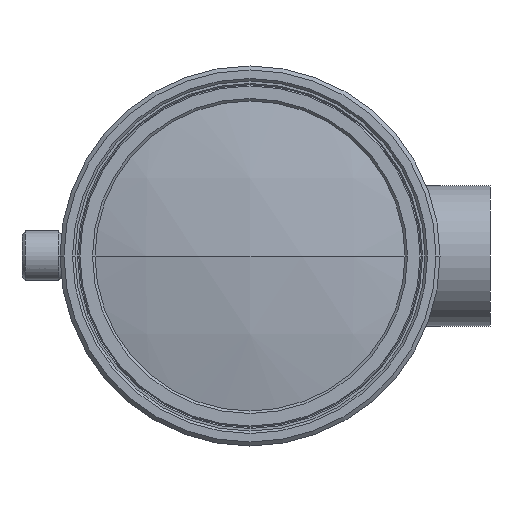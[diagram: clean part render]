
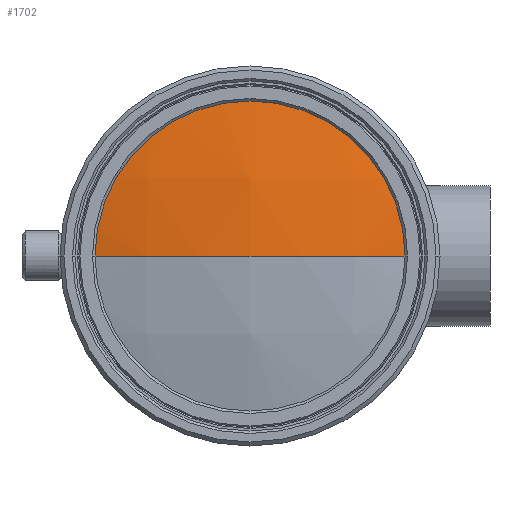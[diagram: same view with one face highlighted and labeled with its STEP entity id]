
A CAD part, left-side view. The second image highlights one B-rep face of the part: STEP entity #1702.
In plain terms, the highlighted spherical face has radius 66.5 mm.
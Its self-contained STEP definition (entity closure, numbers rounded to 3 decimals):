
#32 = DIRECTION ( 'NONE',  ( 0., 0., 1. ) ) ;
#262 = AXIS2_PLACEMENT_3D ( 'NONE', #1637, #32, #696 ) ;
#598 = CIRCLE ( 'NONE', #4110, 15.5 ) ;
#622 = CARTESIAN_POINT ( 'NONE',  ( -64.368, -9.786, 178.355 ) ) ;
#682 = CIRCLE ( 'NONE', #1831, 66.5 ) ;
#696 = DIRECTION ( 'NONE',  ( 0., -1., 0. ) ) ;
#773 = DIRECTION ( 'NONE',  ( 0., 0., -1. ) ) ;
#1115 = ORIENTED_EDGE ( 'NONE', *, *, #3119, .F. ) ;
#1140 = EDGE_CURVE ( 'NONE', #2635, #3731, #3406, .T. ) ;
#1387 = FACE_OUTER_BOUND ( 'NONE', #1925, .T. ) ;
#1441 = CARTESIAN_POINT ( 'NONE',  ( 2.132, -9.786, 178.355 ) ) ;
#1454 = DIRECTION ( 'NONE',  ( 0., 1., 0. ) ) ;
#1637 = CARTESIAN_POINT ( 'NONE',  ( 2.132, -9.786, 178.355 ) ) ;
#1702 = ADVANCED_FACE ( 'NONE', ( #1387 ), #2224, .T. ) ;
#1774 = CARTESIAN_POINT ( 'NONE',  ( 2.132, -9.786, 178.355 ) ) ;
#1831 = AXIS2_PLACEMENT_3D ( 'NONE', #1441, #773, #1454 ) ;
#1925 = EDGE_LOOP ( 'NONE', ( #3843, #2438, #1115 ) ) ;
#1990 = CARTESIAN_POINT ( 'NONE',  ( -62.536, -25.286, 178.355 ) ) ;
#2011 = DIRECTION ( 'NONE',  ( 0., 1., 0. ) ) ;
#2138 = AXIS2_PLACEMENT_3D ( 'NONE', #1774, #3040, #3684 ) ;
#2224 = SPHERICAL_SURFACE ( 'NONE', #262, 66.5 ) ;
#2301 = EDGE_CURVE ( 'NONE', #2869, #2635, #598, .T. ) ;
#2438 = ORIENTED_EDGE ( 'NONE', *, *, #1140, .T. ) ;
#2635 = VERTEX_POINT ( 'NONE', #2722 ) ;
#2722 = CARTESIAN_POINT ( 'NONE',  ( -62.536, 5.714, 178.355 ) ) ;
#2869 = VERTEX_POINT ( 'NONE', #1990 ) ;
#2986 = DIRECTION ( 'NONE',  ( -1., 0., 0. ) ) ;
#3040 = DIRECTION ( 'NONE',  ( 0., 0., 1. ) ) ;
#3119 = EDGE_CURVE ( 'NONE', #2869, #3731, #682, .T. ) ;
#3406 = CIRCLE ( 'NONE', #2138, 66.5 ) ;
#3631 = CARTESIAN_POINT ( 'NONE',  ( -62.536, -9.786, 178.355 ) ) ;
#3684 = DIRECTION ( 'NONE',  ( 0., -1., 0. ) ) ;
#3731 = VERTEX_POINT ( 'NONE', #622 ) ;
#3843 = ORIENTED_EDGE ( 'NONE', *, *, #2301, .T. ) ;
#4110 = AXIS2_PLACEMENT_3D ( 'NONE', #3631, #2986, #2011 ) ;
